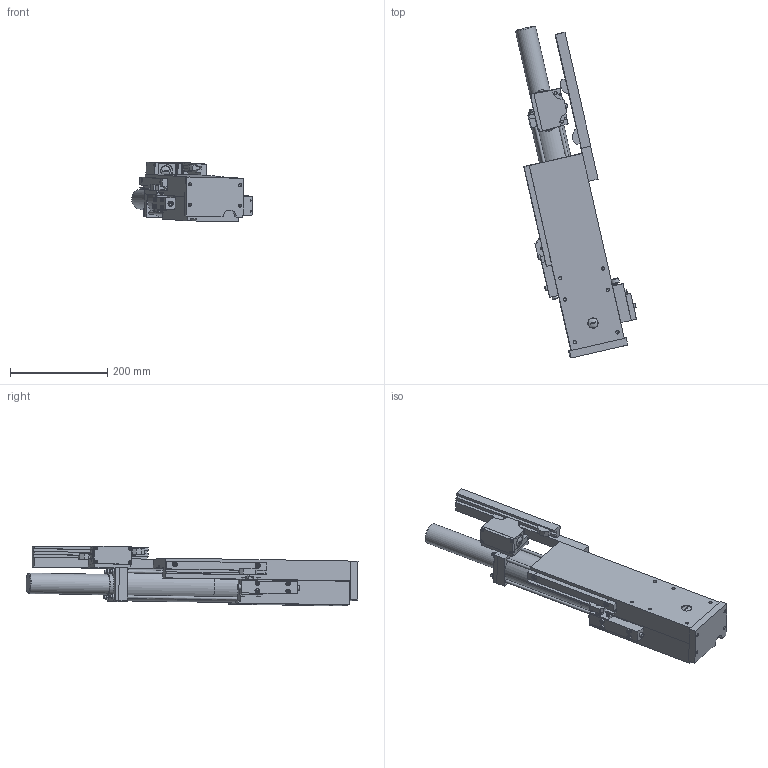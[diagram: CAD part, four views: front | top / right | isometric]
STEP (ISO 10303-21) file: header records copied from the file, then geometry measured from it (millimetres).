
FILE_DESCRIPTION((''),'2;1');
FILE_NAME('C:\VaultWork\Zeichnungen\Maßblätter\H60\VE01526-3-0 Maßblatt Vorschubschlitten H60-160 mit Gewindehülse.stp','2010-06-23T10:02:36',('Test'),(''),'Autodesk Inventor 2008','Autodesk Inventor 2008','');
FILE_SCHEMA(('AUTOMOTIVE_DESIGN { 1 0 10303 214 1 1 1 1 }'));
Length unit declared in the file: millimetre
Products named in the file (1): VE01526-3-0 Maßblatt Vorschubschlitten H60-160 mit Gewindehülse
Bounding box: 248.59 x 682.69 x 122.91 mm (x, y, z)
Volume: 4634848.6 mm3; surface area: 487632.7 mm2
Topology: 1 solids, 12 shells, 729 faces, 1875 edges, 1219 vertices
Faces by surface type: plane 503, cylinder 92, bspline 60, cone 44, torus 29, sphere 1
Full cylindrical faces by diameter (mm): 4 x7, 5.5 x2, 5.9 x2, 6 x14, 6.6 x2, 7 x4, 8.5 x9, 9.98 x2, 10 x8, 15 x2, 17 x1, 18 x1, 20 x3, 42 x1, 44 x1, 66 x2
Entity records: 22287 total; most frequent: CARTESIAN_POINT 5241, ORIENTED_EDGE 3244, DIRECTION 3174, EDGE_CURVE 1622, VERTEX_POINT 1138, VECTOR 1070, LINE 1070, AXIS2_PLACEMENT_3D 1052
